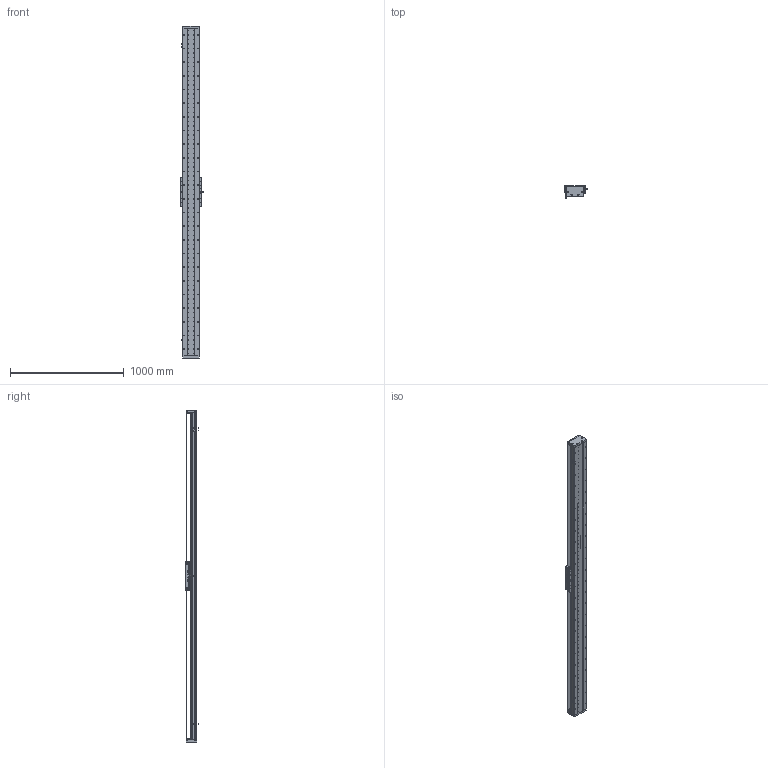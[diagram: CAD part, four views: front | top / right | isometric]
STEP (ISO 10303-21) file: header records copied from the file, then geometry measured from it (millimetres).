
FILE_DESCRIPTION (( 'STEP AP203' ), '1' );
FILE_NAME ('DA-C145-C3-T2580-C010-0.2 眻盄萇儂.STEP', '2025-08-14T01:34:04', ( '' ), ( '' ), 'SwSTEP 2.0', 'SolidWorks 2019', '' );
FILE_SCHEMA (( 'CONFIG_CONTROL_DESIGN' ));
Length unit declared in the file: millimetre
Products named in the file (32): 葩璃 DA145-C3-DP-B-00 菜えB^CU145-W 幗紩賑怢; 葩璃 DA95-HXJ-00 遣喳砎蝶^DA-C145-C3-T-C010-0.2; IU-CU145-L-00 菁釱(L2880); 复件 DA145-C3-YB-A-00 压板A^CU145-W 滚珠滑台; 复件 DA145-GYP-00 光电感应片^DA-C145-C3-T-C010-0.2; 葩璃 PM-T45^DA-C145-C3-T-C010-0.2; 葩璃 CKM03-W060-C1C2-TP-0.2^DA-C145-C3-T-C010-0.2; 复件 DA145-C3-YB-B-00 压板B^CU145-W 滚珠滑台; 复件 DA95-MFP-01 密封片^CU145-W 滚珠滑台; 复件 DA145-DG 钢带端盖^复件 CU145 钢带组件_DA-C145-C3-T-C010-0.2; IU-CU145-L 菁釱絳寢; 复件 DA95-DB-00  挡板^CU145-W 滚珠滑台; CU145-W 幗紩賑怢; 复件 DA146 钢带拉块^复件 CU145 钢带组件_DA-C145-C3-T-C010-0.2; 复件 纯铜油杯 6x6mm^CU145-W 滚珠滑台; 复件 DA145-C3-DK-00 挡块^CU145-W 滚珠滑台; 复件 半圆头内六角螺钉 M3×6^CU145-W 滚珠滑台; TAY01-M8; 葩璃 DA95-GT-T-00^IU-CU145-L 菁釱絳寢; 葩璃 DA145-C3-DP-A-00 菜えA^CU145-W 幗紩賑怢; 葩璃 鞠褒情蹟譫 M3^DA-C145-C3-T-C010-0.2; 葩璃 DMA-010-0.2 黍杅芛^DA-C145-C3-T-C010-0.2; 葩璃 CKMA01-W060-TRL^DA-C145-C3-T-C010-0.2; DA-C145-C3-T2580-C010-0.2 眻盄萇儂; 复件 DA145 钢带^复件 CU145 钢带组件_DA-C145-C3-T-C010-0.2; 复件 内六角平端紧定螺钉 GB.T77-2000 M5×10^CU145-W 滚珠滑台; 葩璃 CU145 詩湍郪璃^DA-C145-C3-T-C010-0.2; 复件 DA95-HK-GT-00 滑块钢轨^CU145-W-00 一体化滑动台板; 葩璃 XD-U-02L 棠掑喜^DA-C145-C3-T-C010-0.2; 66245-CU145-HT-W-00 賑雄怢啣(3D芞祧)(00); 复件 DA146 钢带垫块^复件 CU145 钢带组件_DA-C145-C3-T-C010-0.2; CU145-W-00 珨极趙賑雄怢啣
Assembly tree (103 placements, depth 4):
  DA-C145-C3-T2580-C010-0.2 眻盄萇儂
    IU-CU145-L 菁釱絳寢
      IU-CU145-L-00 菁釱(L2880)
      葩璃 DA95-GT-T-00^IU-CU145-L 菁釱絳寢  x4
    葩璃 CU145 詩湍郪璃^DA-C145-C3-T-C010-0.2
      复件 DA145-DG 钢带端盖^复件 CU145 钢带组件_DA-C145-C3-T-C010-0.2  x2
      复件 DA146 钢带拉块^复件 CU145 钢带组件_DA-C145-C3-T-C010-0.2  x2
      复件 DA146 钢带垫块^复件 CU145 钢带组件_DA-C145-C3-T-C010-0.2  x2
      复件 DA145 钢带^复件 CU145 钢带组件_DA-C145-C3-T-C010-0.2
    CU145-W 幗紩賑怢
      CU145-W-00 珨极趙賑雄怢啣
        66245-CU145-HT-W-00 賑雄怢啣(3D芞祧)(00)
        复件 DA95-HK-GT-00 滑块钢轨^CU145-W-00 一体化滑动台板  x8
      复件 DA95-MFP-01 密封片^CU145-W 滚珠滑台  x8
      复件 DA95-DB-00  挡板^CU145-W 滚珠滑台  x8
      复件 内六角平端紧定螺钉 GB.T77-2000 M5×10^CU145-W 滚珠滑台  x4
      复件 纯铜油杯 6x6mm^CU145-W 滚珠滑台  x4
      复件 半圆头内六角螺钉 M3×6^CU145-W 滚珠滑台  x16
      复件 DA145-C3-DK-00 挡块^CU145-W 滚珠滑台  x4
      葩璃 DA145-C3-DP-B-00 菜えB^CU145-W 幗紩賑怢  x2
      复件 DA145-C3-YB-B-00 压板B^CU145-W 滚珠滑台  x2
      葩璃 DA145-C3-DP-A-00 菜えA^CU145-W 幗紩賑怢  x3
      复件 DA145-C3-YB-A-00 压板A^CU145-W 滚珠滑台  x3
      TAY01-M8  x4
    葩璃 CKMA01-W060-TRL^DA-C145-C3-T-C010-0.2
    葩璃 PM-T45^DA-C145-C3-T-C010-0.2  x3
    葩璃 XD-U-02L 棠掑喜^DA-C145-C3-T-C010-0.2
    葩璃 DA95-HXJ-00 遣喳砎蝶^DA-C145-C3-T-C010-0.2  x4
    复件 DA145-GYP-00 光电感应片^DA-C145-C3-T-C010-0.2
    葩璃 DMA-010-0.2 黍杅芛^DA-C145-C3-T-C010-0.2
    葩璃 CKM03-W060-C1C2-TP-0.2^DA-C145-C3-T-C010-0.2
    葩璃 鞠褒情蹟譫 M3^DA-C145-C3-T-C010-0.2  x8
Bounding box: 203.5 x 108.45 x 2916 mm (x, y, z)
Volume: 13512050.1 mm3; surface area: 4537718.3 mm2
Topology: 99 solids, 131 shells, 4763 faces, 13736 edges, 8622 vertices
Faces by surface type: cylinder 2395, plane 1600, cone 690, torus 74, sphere 4
Entity records: 134494 total; most frequent: CARTESIAN_POINT 40794, ORIENTED_EDGE 18992, DIRECTION 17935, EDGE_CURVE 9496, AXIS2_PLACEMENT_3D 6746, VERTEX_POINT 6161, VECTOR 4443, LINE 4443
